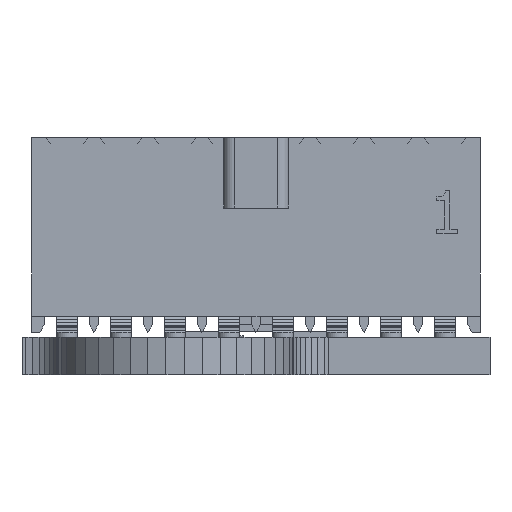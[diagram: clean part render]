
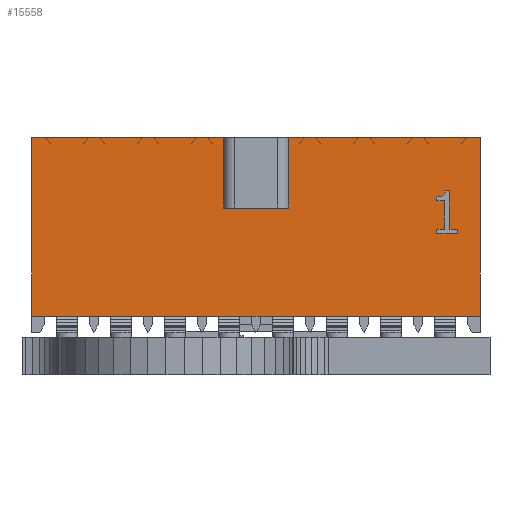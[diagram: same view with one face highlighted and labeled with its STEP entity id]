
A CAD part, left-side view. The second image highlights one B-rep face of the part: STEP entity #15558.
In plain terms, the highlighted planar face has unit normal (-1, 0, 0).
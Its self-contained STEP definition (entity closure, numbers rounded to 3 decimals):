
#633=FACE_BOUND('',#1593,.T.);
#706=FACE_OUTER_BOUND('',#1592,.T.);
#1592=EDGE_LOOP('',(#10185,#10186,#10187,#10188,#10189,#10190,#10191,#10192));
#1593=EDGE_LOOP('',(#10193,#10194,#10195,#10196,#10197,#10198,#10199,#10200,
#10201,#10202,#10203));
#2480=B_SPLINE_CURVE_WITH_KNOTS('',2,(#22078,#22079,#22080,#22081),
 .UNSPECIFIED.,.F.,.F.,(3,1,3),(0.,1.,2.),.UNSPECIFIED.);
#2494=LINE('',#22066,#4363);
#2498=LINE('',#22085,#4367);
#2500=LINE('',#22089,#4369);
#2502=LINE('',#22093,#4371);
#2504=LINE('',#22097,#4373);
#2505=LINE('',#22100,#4374);
#2507=LINE('',#22104,#4376);
#2509=LINE('',#22108,#4378);
#2511=LINE('',#22112,#4380);
#2513=LINE('',#22115,#4382);
#2518=LINE('',#22127,#4387);
#2705=LINE('',#22501,#4574);
#2706=LINE('',#22503,#4575);
#2707=LINE('',#22505,#4576);
#2708=LINE('',#22507,#4577);
#2709=LINE('',#22509,#4578);
#2710=LINE('',#22511,#4579);
#2711=LINE('',#22512,#4580);
#4363=VECTOR('',#17736,1.);
#4367=VECTOR('',#17742,1.);
#4369=VECTOR('',#17746,1.);
#4371=VECTOR('',#17750,1.);
#4373=VECTOR('',#17754,1.);
#4374=VECTOR('',#17757,1.);
#4376=VECTOR('',#17761,1.);
#4378=VECTOR('',#17765,1.);
#4380=VECTOR('',#17769,1.);
#4382=VECTOR('',#17773,1.);
#4387=VECTOR('',#17780,1.);
#4574=VECTOR('',#17971,1.);
#4575=VECTOR('',#17972,1.);
#4576=VECTOR('',#17973,1.);
#4577=VECTOR('',#17974,1.);
#4578=VECTOR('',#17975,1.);
#4579=VECTOR('',#17976,1.);
#4580=VECTOR('',#17977,1.);
#6232=VERTEX_POINT('',#22063);
#6233=VERTEX_POINT('',#22065);
#6234=VERTEX_POINT('',#22076);
#6235=VERTEX_POINT('',#22083);
#6236=VERTEX_POINT('',#22087);
#6237=VERTEX_POINT('',#22091);
#6238=VERTEX_POINT('',#22095);
#6239=VERTEX_POINT('',#22099);
#6240=VERTEX_POINT('',#22103);
#6241=VERTEX_POINT('',#22107);
#6242=VERTEX_POINT('',#22111);
#6247=VERTEX_POINT('',#22124);
#6248=VERTEX_POINT('',#22126);
#6433=VERTEX_POINT('',#22500);
#6434=VERTEX_POINT('',#22502);
#6435=VERTEX_POINT('',#22504);
#6436=VERTEX_POINT('',#22506);
#6437=VERTEX_POINT('',#22508);
#6438=VERTEX_POINT('',#22510);
#7699=EDGE_CURVE('',#6233,#6232,#2494,.T.);
#7702=EDGE_CURVE('',#6232,#6234,#2480,.T.);
#7704=EDGE_CURVE('',#6234,#6235,#2498,.T.);
#7706=EDGE_CURVE('',#6235,#6236,#2500,.T.);
#7708=EDGE_CURVE('',#6236,#6237,#2502,.T.);
#7710=EDGE_CURVE('',#6237,#6238,#2504,.T.);
#7711=EDGE_CURVE('',#6239,#6233,#2505,.T.);
#7713=EDGE_CURVE('',#6240,#6239,#2507,.T.);
#7715=EDGE_CURVE('',#6241,#6240,#2509,.T.);
#7717=EDGE_CURVE('',#6242,#6241,#2511,.T.);
#7719=EDGE_CURVE('',#6238,#6242,#2513,.T.);
#7724=EDGE_CURVE('',#6248,#6247,#2518,.T.);
#7911=EDGE_CURVE('',#6433,#6247,#2705,.T.);
#7912=EDGE_CURVE('',#6434,#6433,#2706,.T.);
#7913=EDGE_CURVE('',#6435,#6434,#2707,.T.);
#7914=EDGE_CURVE('',#6436,#6435,#2708,.T.);
#7915=EDGE_CURVE('',#6437,#6436,#2709,.T.);
#7916=EDGE_CURVE('',#6438,#6437,#2710,.T.);
#7917=EDGE_CURVE('',#6438,#6248,#2711,.T.);
#10185=ORIENTED_EDGE('',*,*,#7724,.T.);
#10186=ORIENTED_EDGE('',*,*,#7911,.F.);
#10187=ORIENTED_EDGE('',*,*,#7912,.F.);
#10188=ORIENTED_EDGE('',*,*,#7913,.F.);
#10189=ORIENTED_EDGE('',*,*,#7914,.F.);
#10190=ORIENTED_EDGE('',*,*,#7915,.F.);
#10191=ORIENTED_EDGE('',*,*,#7916,.F.);
#10192=ORIENTED_EDGE('',*,*,#7917,.T.);
#10193=ORIENTED_EDGE('',*,*,#7699,.T.);
#10194=ORIENTED_EDGE('',*,*,#7702,.T.);
#10195=ORIENTED_EDGE('',*,*,#7704,.T.);
#10196=ORIENTED_EDGE('',*,*,#7706,.T.);
#10197=ORIENTED_EDGE('',*,*,#7708,.T.);
#10198=ORIENTED_EDGE('',*,*,#7710,.T.);
#10199=ORIENTED_EDGE('',*,*,#7719,.T.);
#10200=ORIENTED_EDGE('',*,*,#7717,.T.);
#10201=ORIENTED_EDGE('',*,*,#7715,.T.);
#10202=ORIENTED_EDGE('',*,*,#7713,.T.);
#10203=ORIENTED_EDGE('',*,*,#7711,.T.);
#14453=PLANE('',#16509);
#15558=ADVANCED_FACE('',(#706,#633),#14453,.T.);
#16509=AXIS2_PLACEMENT_3D('',#22499,#17969,#17970);
#17736=DIRECTION('',(0.,0.,1.));
#17742=DIRECTION('',(0.,-1.,0.));
#17746=DIRECTION('',(0.,0.,-1.));
#17750=DIRECTION('',(0.,-1.,0.));
#17754=DIRECTION('',(0.,0.,-1.));
#17757=DIRECTION('',(0.,1.,0.));
#17761=DIRECTION('',(0.,0.,1.));
#17765=DIRECTION('',(0.,-1.,0.));
#17769=DIRECTION('',(0.,0.,1.));
#17773=DIRECTION('',(0.,1.,0.));
#17780=DIRECTION('',(0.,-1.,0.));
#17969=DIRECTION('center_axis',(-1.,0.,
0.));
#17970=DIRECTION('ref_axis',(0.,1.,0.));
#17971=DIRECTION('',(0.,0.,-1.));
#17972=DIRECTION('',(0.,-1.,0.));
#17973=DIRECTION('',(0.,0.,1.));
#17974=DIRECTION('',(0.,-1.,0.));
#17975=DIRECTION('',(0.,0.,-1.));
#17976=DIRECTION('',(0.,-1.,0.));
#17977=DIRECTION('',(0.,0.,-1.));
#22063=CARTESIAN_POINT('',(8.226,1.252,3.311));
#22065=CARTESIAN_POINT('',(8.226,1.252,3.219));
#22066=CARTESIAN_POINT('',(8.226,1.252,4.005));
#22076=CARTESIAN_POINT('',(8.226,1.045,3.45));
#22078=CARTESIAN_POINT('Ctrl Pts',(8.226,1.252,3.311));
#22079=CARTESIAN_POINT('Ctrl Pts',(8.226,1.149,3.311));
#22080=CARTESIAN_POINT('Ctrl Pts',(8.226,1.052,3.369));
#22081=CARTESIAN_POINT('Ctrl Pts',(8.226,1.045,3.45));
#22083=CARTESIAN_POINT('',(8.226,0.941,3.45));
#22085=CARTESIAN_POINT('',(8.226,5.856,3.45));
#22087=CARTESIAN_POINT('',(8.226,0.941,2.549));
#22089=CARTESIAN_POINT('',(8.226,0.941,3.624));
#22091=CARTESIAN_POINT('',(8.226,0.764,2.549));
#22093=CARTESIAN_POINT('',(8.226,5.767,2.549));
#22095=CARTESIAN_POINT('',(8.226,0.764,2.447));
#22097=CARTESIAN_POINT('',(8.226,0.764,3.573));
#22099=CARTESIAN_POINT('',(8.226,1.07,3.219));
#22100=CARTESIAN_POINT('',(8.226,6.011,3.219));
#22103=CARTESIAN_POINT('',(8.226,1.07,2.549));
#22104=CARTESIAN_POINT('',(8.226,1.07,3.959));
#22107=CARTESIAN_POINT('',(8.226,1.252,2.549));
#22108=CARTESIAN_POINT('',(8.226,5.92,2.549));
#22111=CARTESIAN_POINT('',(8.226,1.252,2.447));
#22112=CARTESIAN_POINT('',(8.226,1.252,3.624));
#22115=CARTESIAN_POINT('',(8.226,6.011,2.447));
#22124=CARTESIAN_POINT('',(8.226,0.23,0.508));
#22126=CARTESIAN_POINT('',(8.226,10.771,0.508));
#22127=CARTESIAN_POINT('',(8.226,10.771,0.508));
#22499=CARTESIAN_POINT('Origin',(8.226,10.771,4.699));
#22500=CARTESIAN_POINT('',(8.226,0.23,4.699));
#22501=CARTESIAN_POINT('',(8.226,0.23,4.699));
#22502=CARTESIAN_POINT('',(8.226,4.738,4.699));
#22503=CARTESIAN_POINT('',(8.226,10.771,4.699));
#22504=CARTESIAN_POINT('',(8.226,4.738,3.048));
#22505=CARTESIAN_POINT('',(8.226,4.738,4.699));
#22506=CARTESIAN_POINT('',(8.226,6.262,3.048));
#22507=CARTESIAN_POINT('',(8.226,6.262,3.048));
#22508=CARTESIAN_POINT('',(8.226,6.262,4.699));
#22509=CARTESIAN_POINT('',(8.226,6.262,4.699));
#22510=CARTESIAN_POINT('',(8.226,10.771,4.699));
#22511=CARTESIAN_POINT('',(8.226,10.771,4.699));
#22512=CARTESIAN_POINT('',(8.226,10.771,4.699));
